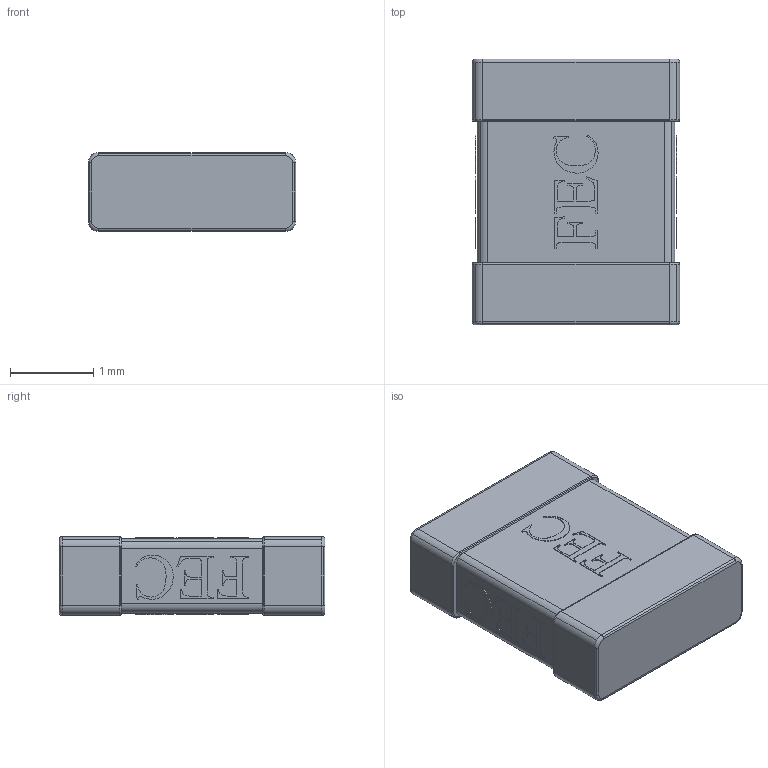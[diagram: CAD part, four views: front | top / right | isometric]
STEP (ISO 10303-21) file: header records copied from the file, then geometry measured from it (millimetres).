
FILE_DESCRIPTION(('STEP AP214'),'1');
FILE_NAME('tmp0.step','2023-08-07T01:03:58',(' '),(' '),'Spatial InterOp 3D',' ',' ');
FILE_SCHEMA(('AUTOMOTIVE_DESIGN { 1 0 10303 214 1 1 1 1 }'));
Length unit declared in the file: millimetre
Products named in the file (1): 1
Bounding box: 2.5 x 3.2 x 0.95 mm (x, y, z)
Volume: 7.2 mm3; surface area: 35.9 mm2
Topology: 15 solids, 15 shells, 1102 faces, 3184 edges, 2112 vertices
Faces by surface type: plane 1030, cylinder 56, torus 16
Entity records: 35714 total; most frequent: CARTESIAN_POINT 6413, ORIENTED_EDGE 6368, DIRECTION 5546, EDGE_CURVE 3184, LINE 3056, VECTOR 3056, VERTEX_POINT 2112, AXIS2_PLACEMENT_3D 1245
